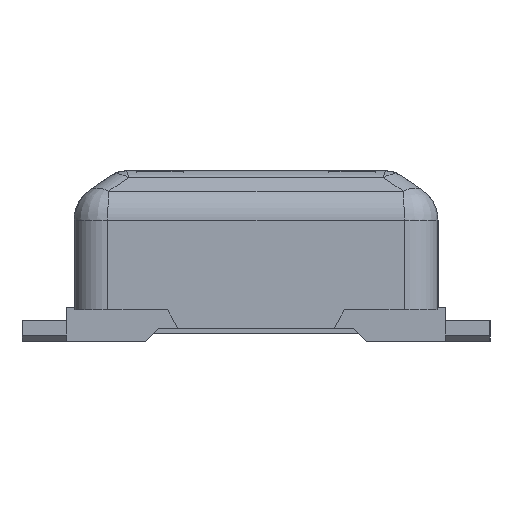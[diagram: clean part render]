
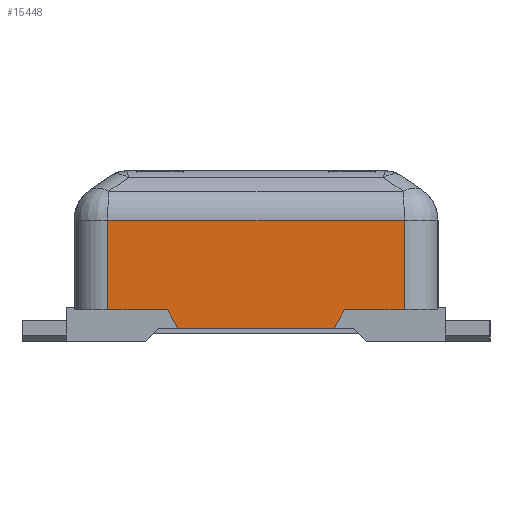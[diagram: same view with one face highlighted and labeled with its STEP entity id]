
A CAD part, left-side view. The second image highlights one B-rep face of the part: STEP entity #15448.
In plain terms, the highlighted planar face has unit normal (-1, 0, 0).
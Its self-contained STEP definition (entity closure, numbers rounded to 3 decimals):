
#15436=AXIS2_PLACEMENT_3D('Plane Axis2P3D',#15433,#15434,#15435) ;
#11773=CARTESIAN_POINT('Vertex',(1.17,0.57,0.09)) ;
#11776=CARTESIAN_POINT('Line Origine',(1.17,0.57,0.263)) ;
#11780=CARTESIAN_POINT('Vertex',(1.17,0.57,0.435)) ;
#11799=CARTESIAN_POINT('Vertex',(1.17,0.34,0.09)) ;
#11802=CARTESIAN_POINT('Line Origine',(1.17,0.455,0.09)) ;
#11819=CARTESIAN_POINT('Vertex',(1.17,-0.3,0.02)) ;
#11822=CARTESIAN_POINT('Line Origine',(1.17,0.,0.02)) ;
#11826=CARTESIAN_POINT('Vertex',(1.17,0.3,0.02)) ;
#11845=CARTESIAN_POINT('Vertex',(1.17,-0.34,0.09)) ;
#11848=CARTESIAN_POINT('Line Origine',(1.17,-0.32,0.055)) ;
#11864=CARTESIAN_POINT('Vertex',(1.17,-0.57,0.09)) ;
#11867=CARTESIAN_POINT('Line Origine',(1.17,-0.455,0.09)) ;
#11880=CARTESIAN_POINT('Line Origine',(1.17,0.32,0.055)) ;
#11901=CARTESIAN_POINT('Vertex',(1.17,-0.57,0.435)) ;
#11904=CARTESIAN_POINT('Line Origine',(1.17,-0.57,0.263)) ;
#12052=CARTESIAN_POINT('Line Origine',(1.17,0.,0.435)) ;
#15433=CARTESIAN_POINT('Axis2P3D Location',(1.17,0.,0.)) ;
#11777=DIRECTION('Vector Direction',(0.,0.,-1.)) ;
#11803=DIRECTION('Vector Direction',(0.,-1.,0.)) ;
#11823=DIRECTION('Vector Direction',(0.,-1.,0.)) ;
#11849=DIRECTION('Vector Direction',(0.,0.496,-0.868)) ;
#11868=DIRECTION('Vector Direction',(0.,-1.,0.)) ;
#11881=DIRECTION('Vector Direction',(0.,-0.496,-0.868)) ;
#11905=DIRECTION('Vector Direction',(0.,0.,1.)) ;
#12053=DIRECTION('Vector Direction',(0.,1.,0.)) ;
#15434=DIRECTION('Axis2P3D Direction',(1.,0.,0.)) ;
#15435=DIRECTION('Axis2P3D XDirection',(0.,1.,0.)) ;
#11778=VECTOR('Line Direction',#11777,1.) ;
#11804=VECTOR('Line Direction',#11803,1.) ;
#11824=VECTOR('Line Direction',#11823,1.) ;
#11850=VECTOR('Line Direction',#11849,1.) ;
#11869=VECTOR('Line Direction',#11868,1.) ;
#11882=VECTOR('Line Direction',#11881,1.) ;
#11906=VECTOR('Line Direction',#11905,1.) ;
#12054=VECTOR('Line Direction',#12053,1.) ;
#15439=ORIENTED_EDGE('',*,*,#11782,.F.) ;
#15440=ORIENTED_EDGE('',*,*,#11806,.T.) ;
#15441=ORIENTED_EDGE('',*,*,#11884,.T.) ;
#15442=ORIENTED_EDGE('',*,*,#11828,.F.) ;
#15443=ORIENTED_EDGE('',*,*,#11852,.F.) ;
#15444=ORIENTED_EDGE('',*,*,#11871,.F.) ;
#15445=ORIENTED_EDGE('',*,*,#11908,.T.) ;
#15446=ORIENTED_EDGE('',*,*,#12056,.T.) ;
#15448=ADVANCED_FACE('INSULATOR-(BJF 5843601-O)',(#15447),#15437,.F.) ;
#11782=EDGE_CURVE('',#11774,#11781,#11779,.F.) ;
#11806=EDGE_CURVE('',#11774,#11800,#11805,.T.) ;
#11828=EDGE_CURVE('',#11820,#11827,#11825,.F.) ;
#11852=EDGE_CURVE('',#11846,#11820,#11851,.T.) ;
#11871=EDGE_CURVE('',#11865,#11846,#11870,.F.) ;
#11884=EDGE_CURVE('',#11800,#11827,#11883,.T.) ;
#11908=EDGE_CURVE('',#11865,#11902,#11907,.T.) ;
#12056=EDGE_CURVE('',#11902,#11781,#12055,.T.) ;
#15438=EDGE_LOOP('',(#15439,#15440,#15441,#15442,#15443,#15444,#15445,#15446)) ;
#15447=FACE_OUTER_BOUND('',#15438,.T.) ;
#11779=LINE('Line',#11776,#11778) ;
#11805=LINE('Line',#11802,#11804) ;
#11825=LINE('Line',#11822,#11824) ;
#11851=LINE('Line',#11848,#11850) ;
#11870=LINE('Line',#11867,#11869) ;
#11883=LINE('Line',#11880,#11882) ;
#11907=LINE('Line',#11904,#11906) ;
#12055=LINE('Line',#12052,#12054) ;
#15437=PLANE('Plane',#15436) ;
#11774=VERTEX_POINT('',#11773) ;
#11781=VERTEX_POINT('',#11780) ;
#11800=VERTEX_POINT('',#11799) ;
#11820=VERTEX_POINT('',#11819) ;
#11827=VERTEX_POINT('',#11826) ;
#11846=VERTEX_POINT('',#11845) ;
#11865=VERTEX_POINT('',#11864) ;
#11902=VERTEX_POINT('',#11901) ;
